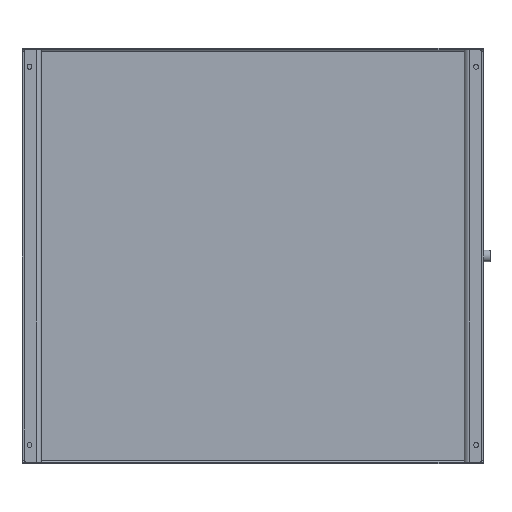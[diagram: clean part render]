
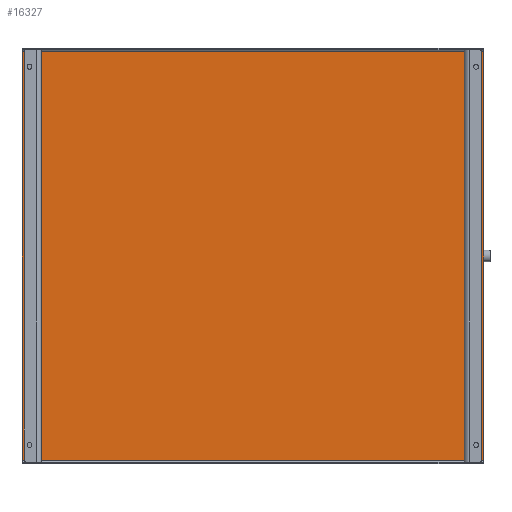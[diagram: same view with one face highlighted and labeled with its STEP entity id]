
A CAD part, front view. The second image highlights one B-rep face of the part: STEP entity #16327.
In plain terms, the highlighted planar face has unit normal (0, -1, 0).
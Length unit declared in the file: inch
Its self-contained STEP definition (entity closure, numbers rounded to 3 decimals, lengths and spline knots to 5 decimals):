
#1278 = LINE ( 'NONE', #79422, #57611 ) ;
#2237 = LINE ( 'NONE', #77553, #85563 ) ;
#6934 = CARTESIAN_POINT ( 'NONE',  ( 20.46685, -12.6072, 25.83083 ) ) ;
#7629 = CARTESIAN_POINT ( 'NONE',  ( -33.53315, -12.6072, 25.83083 ) ) ;
#9018 = AXIS2_PLACEMENT_3D ( 'NONE', #44257, #37713, #84705 ) ;
#11578 = ORIENTED_EDGE ( 'NONE', *, *, #86643, .F. ) ;
#14441 = DIRECTION ( 'NONE',  ( 1., 0., 0. ) ) ;
#14607 = DIRECTION ( 'NONE',  ( 0., 0., -1. ) ) ;
#15502 = VECTOR ( 'NONE', #14441, 39.37008 ) ;
#16327 = ADVANCED_FACE ( 'NONE', ( #34536 ), #30876, .T. ) ;
#17612 = LINE ( 'NONE', #7629, #15502 ) ;
#18000 = CARTESIAN_POINT ( 'NONE',  ( -33.53315, -12.6072, -21.93557 ) ) ;
#30876 = PLANE ( 'NONE',  #9018 ) ;
#31420 = CARTESIAN_POINT ( 'NONE',  ( -33.53315, -12.6072, 25.83083 ) ) ;
#31554 = EDGE_LOOP ( 'NONE', ( #11578, #72913, #66981, #69064 ) ) ;
#32311 = DIRECTION ( 'NONE',  ( -1., 0., 0. ) ) ;
#34536 = FACE_OUTER_BOUND ( 'NONE', #31554, .T. ) ;
#34796 = CARTESIAN_POINT ( 'NONE',  ( 20.46685, -12.6072, 26.26013 ) ) ;
#37713 = DIRECTION ( 'NONE',  ( 0., -1., 0. ) ) ;
#44257 = CARTESIAN_POINT ( 'NONE',  ( -33.53315, -12.6072, -22.36487 ) ) ;
#45641 = CARTESIAN_POINT ( 'NONE',  ( 20.46685, -12.6072, -21.93557 ) ) ;
#47446 = EDGE_CURVE ( 'NONE', #50077, #78324, #1278, .T. ) ;
#50077 = VERTEX_POINT ( 'NONE', #45641 ) ;
#52008 = EDGE_CURVE ( 'NONE', #55349, #72063, #17612, .T. ) ;
#53666 = EDGE_CURVE ( 'NONE', #72063, #50077, #82748, .T. ) ;
#55349 = VERTEX_POINT ( 'NONE', #31420 ) ;
#57611 = VECTOR ( 'NONE', #32311, 39.37008 ) ;
#60890 = VECTOR ( 'NONE', #14607, 39.37008 ) ;
#64448 = DIRECTION ( 'NONE',  ( 0., 0., 1. ) ) ;
#66981 = ORIENTED_EDGE ( 'NONE', *, *, #53666, .F. ) ;
#69064 = ORIENTED_EDGE ( 'NONE', *, *, #52008, .F. ) ;
#72063 = VERTEX_POINT ( 'NONE', #6934 ) ;
#72913 = ORIENTED_EDGE ( 'NONE', *, *, #47446, .F. ) ;
#77553 = CARTESIAN_POINT ( 'NONE',  ( -33.53315, -12.6072, 26.26013 ) ) ;
#78324 = VERTEX_POINT ( 'NONE', #18000 ) ;
#79422 = CARTESIAN_POINT ( 'NONE',  ( 20.46685, -12.6072, -21.93557 ) ) ;
#82748 = LINE ( 'NONE', #34796, #60890 ) ;
#84705 = DIRECTION ( 'NONE',  ( 0., 0., -1. ) ) ;
#85563 = VECTOR ( 'NONE', #64448, 39.37008 ) ;
#86643 = EDGE_CURVE ( 'NONE', #78324, #55349, #2237, .T. ) ;
